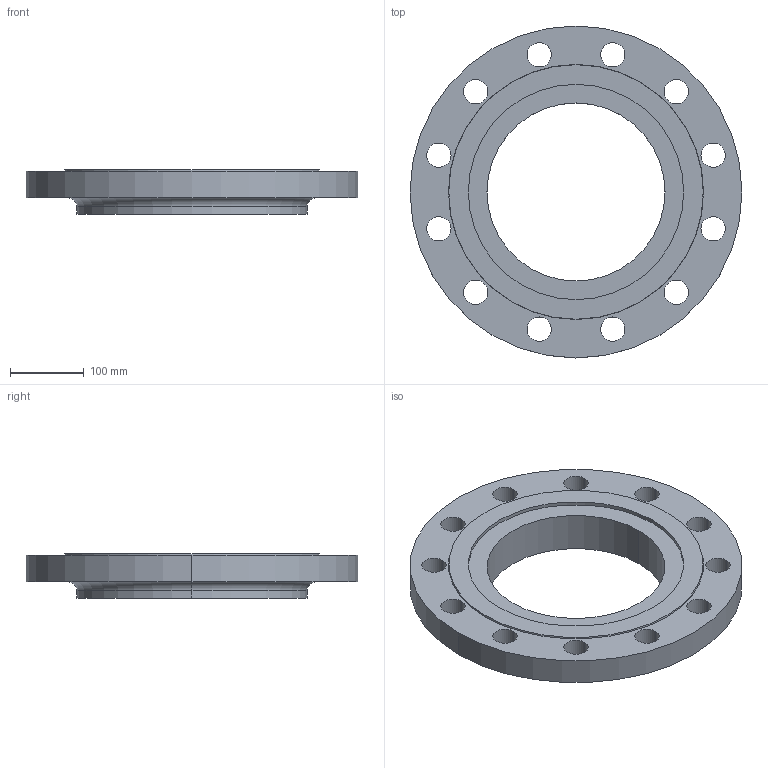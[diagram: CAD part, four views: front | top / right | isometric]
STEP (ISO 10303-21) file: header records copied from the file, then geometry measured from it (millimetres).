
FILE_DESCRIPTION (( 'STEP AP214' ), '1' );
FILE_NAME ('PN40 DN250 Type 13 - Type G Face.STEP', '2019-01-05T15:58:55', ( '' ), ( '' ), 'SwSTEP 2.0', 'SolidWorks 2019', '' );
FILE_SCHEMA (( 'AUTOMOTIVE_DESIGN' ));
Length unit declared in the file: millimetre
Products named in the file (1): PN40 DN250 Type 13 - Type G Face
Bounding box: 450 x 450 x 60 mm (x, y, z)
Volume: 4405370.1 mm3; surface area: 366436.1 mm2
Topology: 1 solids, 1 shells, 41 faces, 106 edges, 70 vertices
Faces by surface type: cylinder 32, plane 5, torus 2, cone 2
Entity records: 1382 total; most frequent: DIRECTION 262, CARTESIAN_POINT 218, ORIENTED_EDGE 212, AXIS2_PLACEMENT_3D 114, EDGE_CURVE 106, CIRCLE 72, EDGE_LOOP 70, VERTEX_POINT 70
